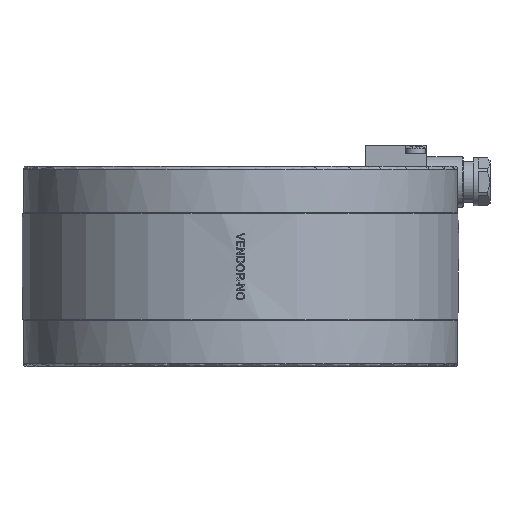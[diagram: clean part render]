
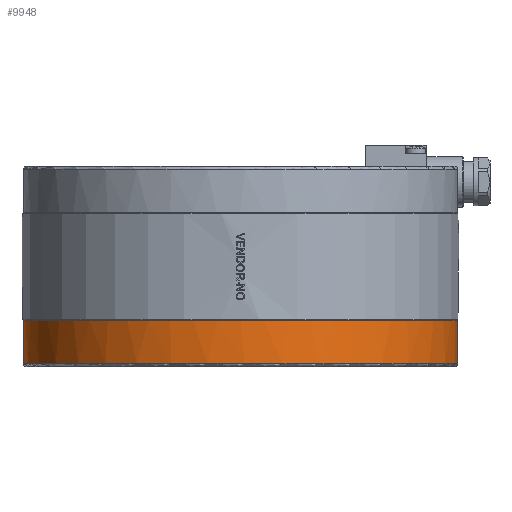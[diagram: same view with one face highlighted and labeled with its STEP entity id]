
A CAD part, front view. The second image highlights one B-rep face of the part: STEP entity #9948.
In plain terms, the highlighted cylindrical face has radius 65 mm (diameter 130 mm), a full revolution.
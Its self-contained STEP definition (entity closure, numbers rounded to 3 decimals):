
#9948=ADVANCED_FACE('',(#12236,#12237),#11731,.T.);
#11731=CYLINDRICAL_SURFACE('',#36924,65.);
#12175=ELLIPSE('',#36921,91.924,65.);
#12176=ELLIPSE('',#36923,91.924,65.);
#12236=FACE_BOUND('',#13196,.T.);
#12237=FACE_BOUND('',#13197,.T.);
#13196=EDGE_LOOP('',(#21029));
#13197=EDGE_LOOP('',(#21030,#21031,#21032,#21033,#21034,#21035));
#15492=LINE('',#48451,#17612);
#15493=LINE('',#48459,#17613);
#17612=VECTOR('',#39878,1.);
#17613=VECTOR('',#39885,1.);
#19831=CIRCLE('',#36919,65.);
#19832=CIRCLE('',#36920,65.);
#19833=CIRCLE('',#36922,65.);
#21029=ORIENTED_EDGE('',*,*,#32048,.T.);
#21030=ORIENTED_EDGE('',*,*,#32049,.T.);
#21031=ORIENTED_EDGE('',*,*,#32050,.T.);
#21032=ORIENTED_EDGE('',*,*,#32051,.T.);
#21033=ORIENTED_EDGE('',*,*,#32052,.F.);
#21034=ORIENTED_EDGE('',*,*,#32053,.T.);
#21035=ORIENTED_EDGE('',*,*,#32054,.T.);
#29231=VERTEX_POINT('',#48447);
#29232=VERTEX_POINT('',#48449);
#29233=VERTEX_POINT('',#48450);
#29234=VERTEX_POINT('',#48452);
#29235=VERTEX_POINT('',#48454);
#29236=VERTEX_POINT('',#48456);
#29237=VERTEX_POINT('',#48458);
#32048=EDGE_CURVE('',#29231,#29231,#19831,.T.);
#32049=EDGE_CURVE('',#29232,#29233,#19832,.T.);
#32050=EDGE_CURVE('',#29233,#29234,#15492,.T.);
#32051=EDGE_CURVE('',#29234,#29235,#12175,.T.);
#32052=EDGE_CURVE('',#29236,#29235,#19833,.T.);
#32053=EDGE_CURVE('',#29236,#29237,#12176,.T.);
#32054=EDGE_CURVE('',#29237,#29232,#15493,.T.);
#36919=AXIS2_PLACEMENT_3D('',#48446,#39874,#39875);
#36920=AXIS2_PLACEMENT_3D('',#48448,#39876,#39877);
#36921=AXIS2_PLACEMENT_3D('',#48453,#39879,#39880);
#36922=AXIS2_PLACEMENT_3D('',#48455,#39881,#39882);
#36923=AXIS2_PLACEMENT_3D('',#48457,#39883,#39884);
#36924=AXIS2_PLACEMENT_3D('',#48460,#39886,#39887);
#39874=DIRECTION('',(0.,0.,1.));
#39875=DIRECTION('',(1.,0.,0.));
#39876=DIRECTION('',(0.,0.,-1.));
#39877=DIRECTION('',(-1.,0.,0.));
#39878=DIRECTION('',(0.,0.,1.));
#39879=DIRECTION('',(0.,0.707,-0.707));
#39880=DIRECTION('',(0.,-0.707,-0.707));
#39881=DIRECTION('',(0.,0.,1.));
#39882=DIRECTION('',(1.,0.,0.));
#39883=DIRECTION('',(0.,0.707,-0.707));
#39884=DIRECTION('',(0.,-0.707,-0.707));
#39885=DIRECTION('',(0.,0.,-1.));
#39886=DIRECTION('',(0.,0.,-1.));
#39887=DIRECTION('',(-1.,0.,0.));
#48446=CARTESIAN_POINT('',(0.,0.,-29.));
#48447=CARTESIAN_POINT('',(65.,0.,-29.));
#48448=CARTESIAN_POINT('',(0.,0.,-16.55));
#48449=CARTESIAN_POINT('',(-25.,60.,-16.55));
#48450=CARTESIAN_POINT('',(25.,60.,-16.55));
#48451=CARTESIAN_POINT('',(25.,60.,30.));
#48452=CARTESIAN_POINT('',(25.,60.,-15.85));
#48453=CARTESIAN_POINT('',(0.,0.,-75.85));
#48454=CARTESIAN_POINT('',(25.592,59.75,-16.1));
#48455=CARTESIAN_POINT('',(0.,0.,-16.1));
#48456=CARTESIAN_POINT('',(-25.592,59.75,-16.1));
#48457=CARTESIAN_POINT('',(0.,0.,-75.85));
#48458=CARTESIAN_POINT('',(-25.,60.,-15.85));
#48459=CARTESIAN_POINT('',(-25.,60.,30.));
#48460=CARTESIAN_POINT('',(0.,0.,30.));
